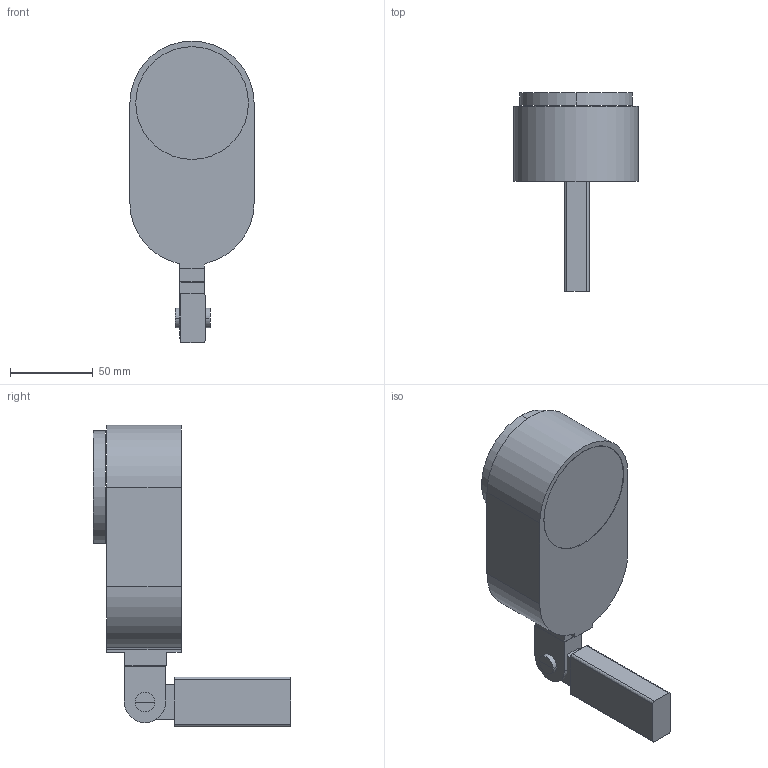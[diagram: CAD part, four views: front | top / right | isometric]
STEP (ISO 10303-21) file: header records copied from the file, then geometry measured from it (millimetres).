
FILE_DESCRIPTION(/* description */ (''),/* implementation_level */ '2;1');
FILE_NAME(/* name */ 'inviting_walllamp.step',/* time_stamp */ '2025-03-13T13:42:52+01:00',/* author */ ('RenataManzini'),/* organization */ (''),/* preprocessor_version */ 'ST-DEVELOPER v20',/* originating_system */ 'AutoCAD Mechanical',/* authorisation */ '');
FILE_SCHEMA (('AUTOMOTIVE_DESIGN { 1 0 10303 214 3 1 1 }'));
Length unit declared in the file: millimetre
Products named in the file (5): Product; FamilyGeomCombination_634609-_3D_; FamilyGeomCombination_635873-_3D_; FamilyGeomCombination_645176-_3D_; FamilyGeomCombination_645860-_3D_
Assembly tree (4 placements, depth 2):
  Product
    FamilyGeomCombination_634609-_3D_
    FamilyGeomCombination_635873-_3D_
    FamilyGeomCombination_645176-_3D_
    FamilyGeomCombination_645860-_3D_
Bounding box: 75 x 119.32 x 182.04 mm (x, y, z)
Volume: 463160.4 mm3; surface area: 72357.1 mm2
Topology: 8 solids, 9 shells, 95 faces, 228 edges, 151 vertices
Faces by surface type: plane 64, cylinder 31
Entity records: 2855 total; most frequent: DIRECTION 499, CARTESIAN_POINT 484, ORIENTED_EDGE 434, EDGE_CURVE 225, AXIS2_PLACEMENT_3D 167, LINE 165, VECTOR 165, VERTEX_POINT 146
